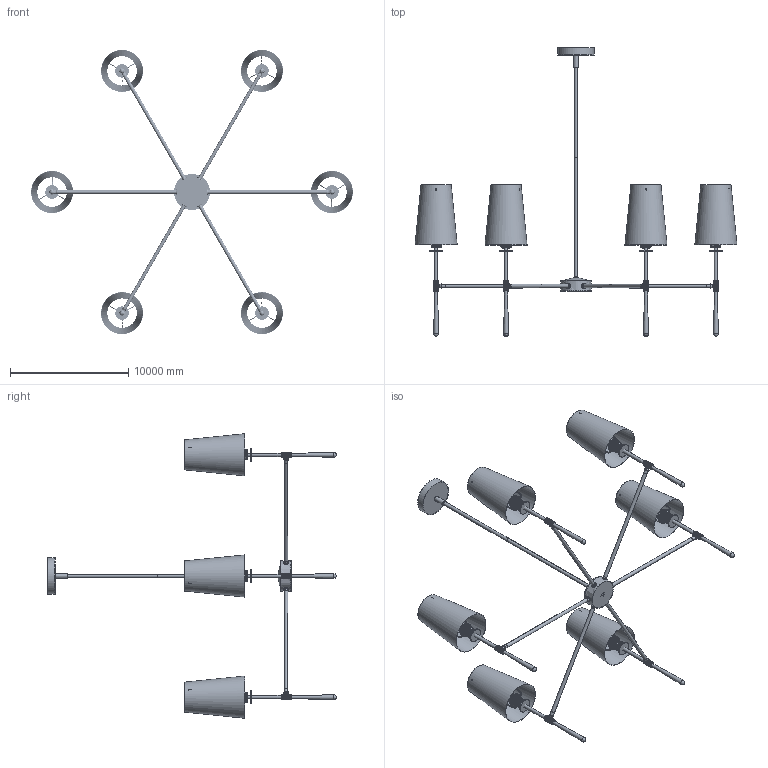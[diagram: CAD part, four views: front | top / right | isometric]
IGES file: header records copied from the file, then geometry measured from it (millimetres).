
Global section: file name: Rhodes Round Chandelier-6heads; native system: AutoCAD 2022 - 简体中文 (Simplified Chinese),62HAuto; preprocessor: desk Translation Framework DWG producer (atf_dwg_producer); organization: unknown; date: 20250922.140248; units: inch
Bounding box: 27178 x 24377.07 x 24011.9 mm (x, y, z)
Volume: 20010905946.4 mm3; surface area: 1011653839.6 mm2
Topology: 129 solids, 129 shells, 771 faces, 1832 edges, 1270 vertices
Faces by surface type: bspline 771
